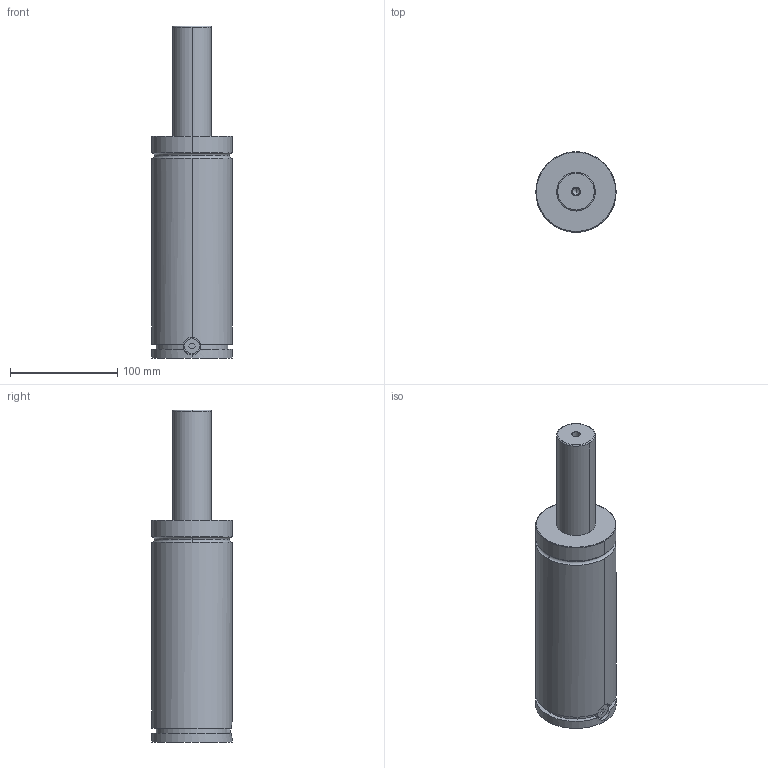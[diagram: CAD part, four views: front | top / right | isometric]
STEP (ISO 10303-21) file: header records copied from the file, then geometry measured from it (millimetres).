
FILE_DESCRIPTION( ( '' ), '1' );
FILE_NAME( 'W:/LIBRERIA TECAPRES®/DIBUJOS STRACK 2012/TPS/TPS 1500/TPS 1500x100.stp', '2012-05-15T13:09:44', ( '' ), ( '' ), ' ', ' ', ' ' );
FILE_SCHEMA( ( 'automotive_design' ) );
Length unit declared in the file: millimetre
Products named in the file (3): 1; 2; 3
Bounding box: 75 x 75 x 310 mm (x, y, z)
Volume: 907082.7 mm3; surface area: 87536.5 mm2
Topology: 3 solids, 3 shells, 68 faces, 152 edges, 98 vertices
Faces by surface type: cylinder 32, plane 24, torus 6, cone 6
Entity records: 3901 total; most frequent: CARTESIAN_POINT 473, DIRECTION 367, STYLED_ITEM 319, PRESENTATION_STYLE_ASSIGNMENT 319, COLOUR_RGB 319, ORIENTED_EDGE 300, AXIS2_PLACEMENT_3D 154, EDGE_CURVE 150
